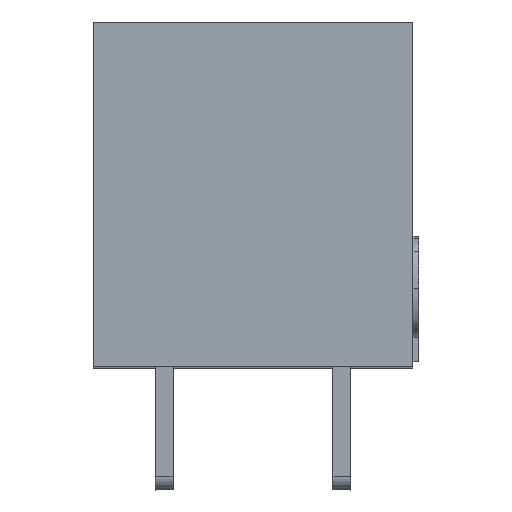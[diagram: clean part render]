
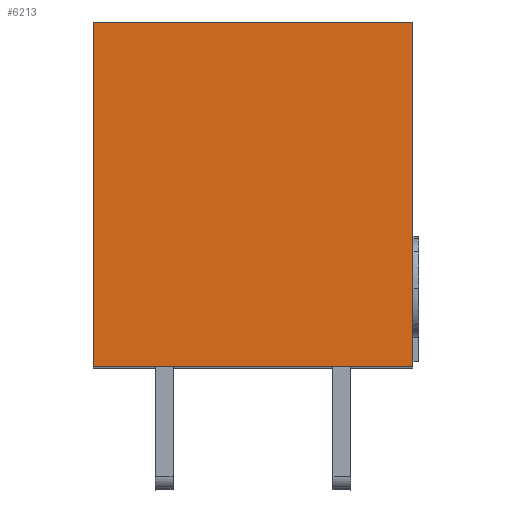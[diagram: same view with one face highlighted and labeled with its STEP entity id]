
A CAD part, top view. The second image highlights one B-rep face of the part: STEP entity #6213.
In plain terms, the highlighted planar face has unit normal (0, 0, 1).
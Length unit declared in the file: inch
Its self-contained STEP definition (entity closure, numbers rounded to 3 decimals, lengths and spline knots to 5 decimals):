
#667=FACE_OUTER_BOUND('',#1013,.T.);
#1013=EDGE_LOOP('',(#5633,#5634,#5635,#5636));
#1438=LINE('',#9872,#2016);
#1765=LINE('',#11470,#2343);
#1773=LINE('',#11487,#2351);
#1774=LINE('',#11489,#2352);
#2016=VECTOR('',#7021,0.3937);
#2343=VECTOR('',#8004,0.3937);
#2351=VECTOR('',#8024,0.3937);
#2352=VECTOR('',#8027,0.3937);
#2605=VERTEX_POINT('',#9869);
#2606=VERTEX_POINT('',#9871);
#2941=VERTEX_POINT('',#11468);
#2944=VERTEX_POINT('',#11485);
#3321=EDGE_CURVE('',#2605,#2606,#1438,.T.);
#3839=EDGE_CURVE('',#2941,#2605,#1765,.T.);
#3847=EDGE_CURVE('',#2941,#2944,#1773,.T.);
#3848=EDGE_CURVE('',#2606,#2944,#1774,.T.);
#5633=ORIENTED_EDGE('',*,*,#3839,.F.);
#5634=ORIENTED_EDGE('',*,*,#3847,.T.);
#5635=ORIENTED_EDGE('',*,*,#3848,.F.);
#5636=ORIENTED_EDGE('',*,*,#3321,.F.);
#5830=PLANE('',#6638);
#6213=ADVANCED_FACE('',(#667),#5830,.T.);
#6638=AXIS2_PLACEMENT_3D('',#11488,#8025,#8026);
#7021=DIRECTION('',(0.,-1.,0.));
#8004=DIRECTION('',(1.,0.,0.));
#8024=DIRECTION('',(0.,-1.,0.));
#8025=DIRECTION('center_axis',(0.,0.,1.));
#8026=DIRECTION('ref_axis',(-1.,0.,0.));
#8027=DIRECTION('',(-1.,0.,0.));
#9869=CARTESIAN_POINT('',(0.135,0.,0.38));
#9871=CARTESIAN_POINT('',(0.135,-0.291,0.38));
#9872=CARTESIAN_POINT('',(0.135,0.,0.38));
#11468=CARTESIAN_POINT('',(-0.135,0.,0.38));
#11470=CARTESIAN_POINT('',(-0.135,0.,0.38));
#11485=CARTESIAN_POINT('',(-0.135,-0.291,0.38));
#11487=CARTESIAN_POINT('',(-0.135,0.,0.38));
#11488=CARTESIAN_POINT('Origin',(0.135,0.,0.38));
#11489=CARTESIAN_POINT('',(-0.135,-0.291,0.38));
